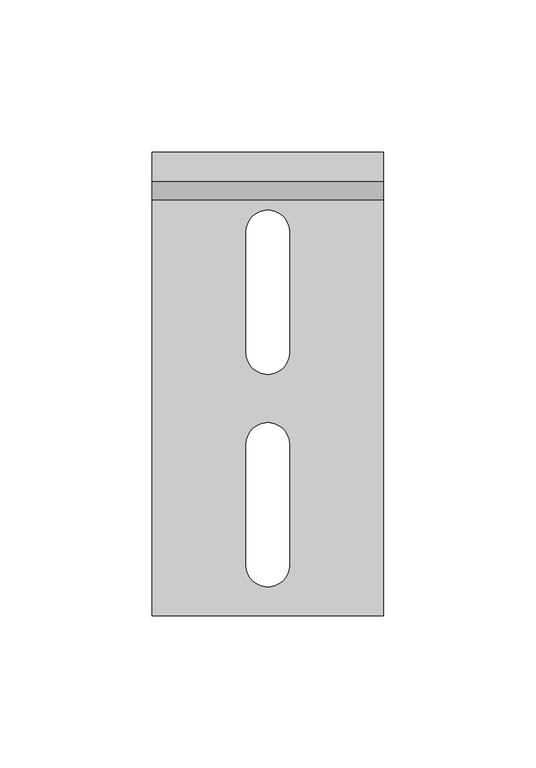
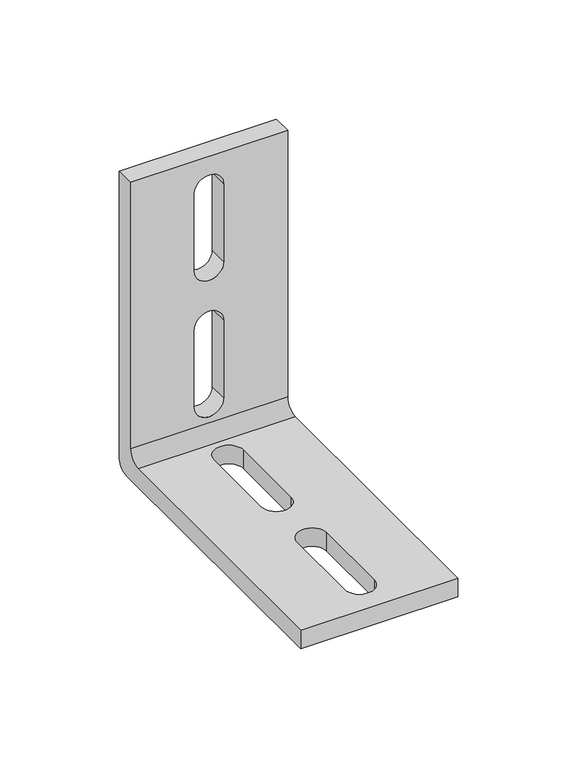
"""IFC4 building model written with IfcOpenShell, lengths in millimetres: proxy geometry, 14NSF-A43 : 14NSF-A43."""

from ifc_helpers import new_model, si_unit, frame, origin, place, context, project, spatial, polyline, circle_curve, source, transform, mapped, element, save
from ifc_brep_helpers import plane_surface, cylinder_surface, revolved_surface, advanced_brep


def generic_models_13be16ed(model_context):
    return source(origin(), model_context, "Body", "AdvancedBrep", [
        advanced_brep(
        [(38.1, -152.4, 0.0), (38.1, -6.35, 0.0), (38.1, 0.0, 6.35), (38.1, 0.0, 152.4), (38.1, -9.525, 152.4), (38.1, -9.525, 15.875), (38.1, -15.875, 9.525), (38.1, -152.4, 9.525), (-38.1, -6.35, 0.0), (-38.1, -152.4, 0.0), (-38.1, -152.4, 9.525), (-38.1, -15.875, 9.525), (-38.1, -9.525, 15.875), (-38.1, -9.525, 152.4), (-38.1, 0.0, 152.4), (-38.1, 0.0, 6.35), (7.14375, -65.8874249, 0.0), (7.14375, -26.1875751, 0.0), (-7.14375, -26.1875751, 0.0), (-7.14375, -65.8874249, 0.0), (7.14375, -135.7374249, 0.0), (7.14375, -96.0375751, 0.0), (-7.14375, -96.0375751, 0.0), (-7.14375, -135.7374249, 0.0), (7.14375, 0.0, 96.0375751), (7.14375, 0.0, 135.7374249), (-7.14375, 0.0, 135.7374249), (-7.14375, 0.0, 96.0375751), (7.14375, 0.0, 26.1875751), (7.14375, 0.0, 65.8874249), (-7.14375, 0.0, 65.8874249), (-7.14375, 0.0, 26.1875751), (7.14375, -9.525, 135.7374249), (7.14375, -9.525, 96.0375751), (-7.14375, -9.525, 96.0375751), (-7.14375, -9.525, 135.7374249), (7.14375, -9.525, 65.8874249), (7.14375, -9.525, 26.1875751), (-7.14375, -9.525, 26.1875751), (-7.14375, -9.525, 65.8874249), (7.14375, -26.1875751, 9.525), (7.14375, -65.8874249, 9.525), (-7.14375, -65.8874249, 9.525), (-7.14375, -26.1875751, 9.525), (7.14375, -96.0375751, 9.525), (7.14375, -135.7374249, 9.525), (-7.14375, -135.7374249, 9.525), (-7.14375, -96.0375751, 9.525)],
        [
            (0, 1),
            (1, 2, circle_curve(frame((38.1, -6.35, 6.35), z_axis=(1.0, 0.0, 0.0), x_axis=(0.0, 1.0, 0.0)), 6.35)),
            (2, 3),
            (3, 4),
            (4, 5),
            (5, 6, circle_curve(frame((38.1, -15.875, 15.875), z_axis=(-1.0, 0.0, 0.0), x_axis=(0.0, 1.0, 0.0)), 6.35)),
            (6, 7),
            (7, 0),
            (8, 9),
            (9, 10),
            (10, 11),
            (11, 12, circle_curve(frame((-38.1, -15.875, 15.875), z_axis=(1.0, 0.0, 0.0), x_axis=(0.0, 1.0, 0.0)), 6.35)),
            (12, 13),
            (13, 14),
            (14, 15),
            (15, 8, circle_curve(frame((-38.1, -6.35, 6.35), z_axis=(-1.0, 0.0, 0.0), x_axis=(0.0, 1.0, 0.0)), 6.35)),
            (0, 9),
            (8, 1),
            (16, 17),
            (17, 18, circle_curve(frame((0.0, -26.1875751, 0.0), z_axis=(0.0, 0.0, 1.0), x_axis=(1.0, 0.0, 0.0)), 7.14375)),
            (18, 19),
            (19, 16, circle_curve(frame((0.0, -65.8874249, 0.0), z_axis=(0.0, 0.0, 1.0), x_axis=(1.0, 0.0, 0.0)), 7.14375)),
            (20, 21),
            (21, 22, circle_curve(frame((0.0, -96.0375751, 0.0), z_axis=(0.0, 0.0, 1.0), x_axis=(1.0, 0.0, 0.0)), 7.14375)),
            (22, 23),
            (23, 20, circle_curve(frame((0.0, -135.7374249, 0.0), z_axis=(0.0, 0.0, 1.0), x_axis=(1.0, 0.0, 0.0)), 7.14375)),
            (2, 15),
            (14, 3),
            (24, 25),
            (25, 26, circle_curve(frame((0.0, 0.0, 135.7374249), z_axis=(0.0, -1.0, 0.0), x_axis=(1.0, 0.0, 0.0)), 7.14375)),
            (26, 27),
            (27, 24, circle_curve(frame((0.0, 0.0, 96.0375751), z_axis=(0.0, -1.0, 0.0), x_axis=(1.0, 0.0, 0.0)), 7.14375)),
            (28, 29),
            (29, 30, circle_curve(frame((0.0, 0.0, 65.8874249), z_axis=(0.0, -1.0, 0.0), x_axis=(1.0, 0.0, 0.0)), 7.14375)),
            (30, 31),
            (31, 28, circle_curve(frame((0.0, 0.0, 26.1875751), z_axis=(0.0, -1.0, 0.0), x_axis=(1.0, 0.0, 0.0)), 7.14375)),
            (13, 4),
            (12, 5),
            (32, 33),
            (33, 34, circle_curve(frame((0.0, -9.525, 96.0375751), z_axis=(0.0, 1.0, 0.0), x_axis=(1.0, 0.0, 0.0)), 7.14375)),
            (34, 35),
            (35, 32, circle_curve(frame((0.0, -9.525, 135.7374249), z_axis=(0.0, 1.0, 0.0), x_axis=(1.0, 0.0, 0.0)), 7.14375)),
            (36, 37),
            (37, 38, circle_curve(frame((0.0, -9.525, 26.1875751), z_axis=(0.0, 1.0, 0.0), x_axis=(1.0, 0.0, 0.0)), 7.14375)),
            (38, 39),
            (39, 36, circle_curve(frame((0.0, -9.525, 65.8874249), z_axis=(0.0, 1.0, 0.0), x_axis=(1.0, 0.0, 0.0)), 7.14375)),
            (6, 11),
            (10, 7),
            (40, 41),
            (41, 42, circle_curve(frame((0.0, -65.8874249, 9.525), z_axis=(0.0, 0.0, -1.0), x_axis=(1.0, 0.0, 0.0)), 7.14375)),
            (42, 43),
            (43, 40, circle_curve(frame((0.0, -26.1875751, 9.525), z_axis=(0.0, 0.0, -1.0), x_axis=(1.0, 0.0, 0.0)), 7.14375)),
            (44, 45),
            (45, 46, circle_curve(frame((0.0, -135.7374249, 9.525), z_axis=(0.0, 0.0, -1.0), x_axis=(1.0, 0.0, 0.0)), 7.14375)),
            (46, 47),
            (47, 44, circle_curve(frame((0.0, -96.0375751, 9.525), z_axis=(0.0, 0.0, -1.0), x_axis=(1.0, 0.0, 0.0)), 7.14375)),
            (16, 41),
            (40, 17),
            (43, 18),
            (42, 19),
            (20, 45),
            (44, 21),
            (47, 22),
            (46, 23),
            (24, 33),
            (32, 25),
            (35, 26),
            (34, 27),
            (28, 37),
            (36, 29),
            (39, 30),
            (38, 31),
        ],
        [
            plane_surface(frame((38.1, -6.35, 0.0), z_axis=(1.0, 0.0, 0.0), x_axis=(0.0, 1.0, 0.0))),
            plane_surface(frame((-38.1, -6.35, 0.0), z_axis=(-1.0, 0.0, 0.0), x_axis=(0.0, -1.0, 0.0))),
            plane_surface(frame((38.1, -152.4, 0.0), z_axis=(0.0, 0.0, -1.0), x_axis=(-1.0, 0.0, 0.0))),
            plane_surface(frame((38.1, 0.0, 6.35), z_axis=(0.0, 1.0, 0.0), x_axis=(-1.0, 0.0, 0.0))),
            plane_surface(frame((38.1, 0.0, 152.4), z_axis=(0.0, 0.0, 1.0), x_axis=(-1.0, 0.0, 0.0))),
            plane_surface(frame((38.1, -9.525, 152.4), z_axis=(0.0, -1.0, 0.0), x_axis=(-1.0, 0.0, 0.0))),
            plane_surface(frame((38.1, -15.875, 9.525), z_axis=(0.0, 0.0, 1.0), x_axis=(-1.0, 0.0, 0.0))),
            plane_surface(frame((38.1, -152.4, 9.525), z_axis=(0.0, -1.0, 0.0), x_axis=(-1.0, 0.0, 0.0))),
            plane_surface(frame((7.14375, -65.8874249, 12.7), z_axis=(-1.0, 0.0, 0.0), x_axis=(0.0, 0.0, -1.0))),
            revolved_surface(polyline([(7.14375, -26.1875751, 9.525), (7.14375, -26.1875751, 0.0)]), (0.0, -26.1875751, 0.0), (0.0, 0.0, 1.0)),
            plane_surface(frame((-7.14375, -26.1875751, 12.7), z_axis=(1.0, 0.0, 0.0), x_axis=(0.0, 0.0, -1.0))),
            revolved_surface(polyline([(7.14375, -65.8874249, 9.525), (7.14375, -65.8874249, 0.0)]), (0.0, -65.8874249, 0.0), (0.0, 0.0, 1.0)),
            plane_surface(frame((7.14375, -135.7374249, 12.7), z_axis=(-1.0, 0.0, 0.0), x_axis=(0.0, 0.0, -1.0))),
            revolved_surface(polyline([(7.14375, -96.0375751, 9.525), (7.14375, -96.0375751, 0.0)]), (0.0, -96.0375751, 0.0), (0.0, 0.0, 1.0)),
            plane_surface(frame((-7.14375, -96.0375751, 12.7), z_axis=(1.0, 0.0, 0.0), x_axis=(0.0, 0.0, -1.0))),
            revolved_surface(polyline([(7.14375, -135.7374249, 9.525), (7.14375, -135.7374249, 0.0)]), (0.0, -135.7374249, 0.0), (0.0, 0.0, 1.0)),
            plane_surface(frame((7.14375, -12.7, 96.0375751), z_axis=(-1.0, 0.0, 0.0), x_axis=(0.0, 1.0, 0.0))),
            revolved_surface(polyline([(7.14375, -9.525, 135.7374249), (7.14375, 0.0, 135.7374249)]), (0.0, 0.0, 135.7374249), (0.0, -1.0, 0.0)),
            plane_surface(frame((-7.14375, -12.7, 135.7374249), z_axis=(1.0, 0.0, 0.0), x_axis=(0.0, 1.0, 0.0))),
            revolved_surface(polyline([(7.14375, -9.525, 96.0375751), (7.14375, 0.0, 96.0375751)]), (0.0, 0.0, 96.0375751), (0.0, -1.0, 0.0)),
            plane_surface(frame((7.14375, -12.7, 26.1875751), z_axis=(-1.0, 0.0, 0.0), x_axis=(0.0, 1.0, 0.0))),
            revolved_surface(polyline([(7.14375, -9.525, 65.8874249), (7.14375, 0.0, 65.8874249)]), (0.0, 0.0, 65.8874249), (0.0, -1.0, 0.0)),
            plane_surface(frame((-7.14375, -12.7, 65.8874249), z_axis=(1.0, 0.0, 0.0), x_axis=(0.0, 1.0, 0.0))),
            revolved_surface(polyline([(7.14375, -9.525, 26.1875751), (7.14375, 0.0, 26.1875751)]), (0.0, 0.0, 26.1875751), (0.0, -1.0, 0.0)),
            cylinder_surface(frame((-38.1, -6.35, 6.35), z_axis=(1.0, 0.0, 0.0), x_axis=(0.0, 1.0, 0.0)), 6.35),
            revolved_surface(polyline([(-38.1, -9.525, 15.875), (38.1, -9.525, 15.875)]), (-38.1, -15.875, 15.875), (-1.0, 0.0, 0.0)),
        ],
        [
            (0, [[1, 2, 3, 4, 5, 6, 7, 8]]),
            (1, [[9, 10, 11, 12, 13, 14, 15, 16]]),
            (2, [[-1, 17, -9, 18], [19, 20, 21, 22], [23, 24, 25, 26]]),
            (3, [[-3, 27, -15, 28], [29, 30, 31, 32], [33, 34, 35, 36]]),
            (4, [[-4, -28, -14, 37]]),
            (5, [[-5, -37, -13, 38], [39, 40, 41, 42], [43, 44, 45, 46]]),
            (6, [[-7, 47, -11, 48], [49, 50, 51, 52], [53, 54, 55, 56]]),
            (7, [[-8, -48, -10, -17]]),
            (8, [[-19, 57, -49, 58]]),
            (9, [[-20, -58, -52, 59]]),
            (10, [[-21, -59, -51, 60]]),
            (11, [[-22, -60, -50, -57]]),
            (12, [[-23, 61, -53, 62]]),
            (13, [[-24, -62, -56, 63]]),
            (14, [[-25, -63, -55, 64]]),
            (15, [[-26, -64, -54, -61]]),
            (16, [[-29, 65, -39, 66]]),
            (17, [[-30, -66, -42, 67]]),
            (18, [[-31, -67, -41, 68]]),
            (19, [[-32, -68, -40, -65]]),
            (20, [[69, -43, 70, -33]]),
            (21, [[-70, -46, 71, -34]]),
            (22, [[-71, -45, 72, -35]]),
            (23, [[-69, -36, -72, -44]]),
            (24, [[-2, -18, -16, -27]]),
            (25, [[-6, -38, -12, -47]]),
        ],
    ),
    ])


if __name__ == "__main__":
    model = new_model("IFC4")
    model_context = context("Model", 3, world=origin())
    ifc_project = project(units=[si_unit("LENGTHUNIT", "METRE", prefix="MILLI")], contexts=[model_context])
    site = spatial("IfcSite", under=ifc_project)
    building = spatial("IfcBuilding", under=site)
    placement = place(None, origin())
    generic_models_shape = generic_models_13be16ed(model_context)
    element("IfcBuildingElementProxy", 1, Name="14NSF-A43 : 14NSF-A43", ObjectType="14NSF-A43 : 14NSF-A43", at=placement, inside=building, context=model_context, shape_type="MappedRepresentation", body=[
        mapped(generic_models_shape, transform((0.0, 0.0, 0.0), x_axis=(1.0, 0.0, 0.0), y_axis=(0.0, 1.0, 0.0), z_axis=(0.0, 0.0, 1.0))),
    ])
    save(model, "model.ifc")
